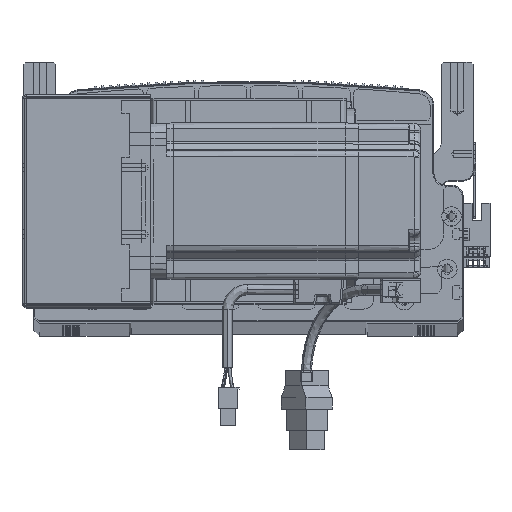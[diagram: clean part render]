
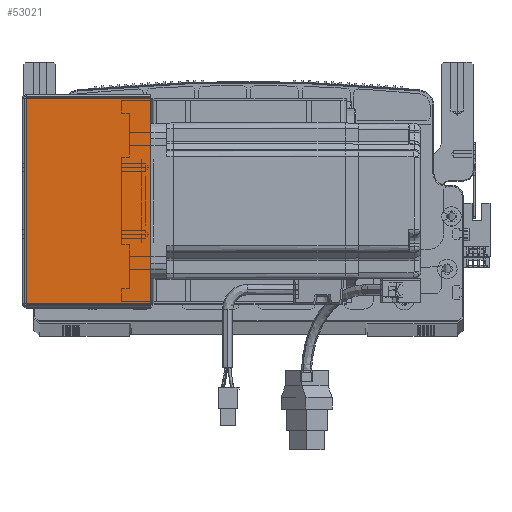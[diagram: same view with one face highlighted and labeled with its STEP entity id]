
A CAD part, top view. The second image highlights one B-rep face of the part: STEP entity #53021.
In plain terms, the highlighted planar face has unit normal (0, 0, 1) as drawn and (0, 0, -1) by its records, which use the part's own axes.
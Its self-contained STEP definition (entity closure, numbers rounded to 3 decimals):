
#905 = LINE ( 'NONE', #7911, #83351 ) ;
#3942 = EDGE_CURVE ( 'NONE', #25735, #85923, #59200, .T. ) ;
#7911 = CARTESIAN_POINT ( 'NONE',  ( 0., 0.707, -205.5 ) ) ;
#9905 = EDGE_LOOP ( 'NONE', ( #40443, #67300, #39289, #98272 ) ) ;
#10550 = EDGE_CURVE ( 'NONE', #56465, #85923, #905, .T. ) ;
#15975 = CARTESIAN_POINT ( 'NONE',  ( 0., 0., -205.5 ) ) ;
#24647 = DIRECTION ( 'NONE',  ( 1., 0., 0. ) ) ;
#24986 = DIRECTION ( 'NONE',  ( 1., 0., 0. ) ) ;
#25735 = VERTEX_POINT ( 'NONE', #40219 ) ;
#28503 = CARTESIAN_POINT ( 'NONE',  ( 0., 105.293, -205.5 ) ) ;
#33051 = DIRECTION ( 'NONE',  ( 0., 0., 1. ) ) ;
#39286 = FACE_OUTER_BOUND ( 'NONE', #9905, .T. ) ;
#39289 = ORIENTED_EDGE ( 'NONE', *, *, #3942, .T. ) ;
#39947 = CARTESIAN_POINT ( 'NONE',  ( 0.737, 105.293, -205.5 ) ) ;
#40219 = CARTESIAN_POINT ( 'NONE',  ( 64.5, 105.293, -205.5 ) ) ;
#40443 = ORIENTED_EDGE ( 'NONE', *, *, #59881, .F. ) ;
#41884 = VERTEX_POINT ( 'NONE', #39947 ) ;
#44677 = DIRECTION ( 'NONE',  ( 0., -1., 0. ) ) ;
#48752 = PLANE ( 'NONE',  #97029 ) ;
#53021 = ADVANCED_FACE ( 'NONE', ( #39286 ), #48752, .F. ) ;
#56465 = VERTEX_POINT ( 'NONE', #90686 ) ;
#59200 = LINE ( 'NONE', #74549, #62904 ) ;
#59496 = VECTOR ( 'NONE', #73494, 1000. ) ;
#59881 = EDGE_CURVE ( 'NONE', #41884, #56465, #87098, .T. ) ;
#62904 = VECTOR ( 'NONE', #74886, 1000. ) ;
#67300 = ORIENTED_EDGE ( 'NONE', *, *, #74855, .T. ) ;
#73370 = VECTOR ( 'NONE', #44677, 1000. ) ;
#73494 = DIRECTION ( 'NONE',  ( 1., 0., 0. ) ) ;
#74549 = CARTESIAN_POINT ( 'NONE',  ( 64.5, 0., -205.5 ) ) ;
#74855 = EDGE_CURVE ( 'NONE', #41884, #25735, #96982, .T. ) ;
#74886 = DIRECTION ( 'NONE',  ( 0., -1., 0. ) ) ;
#76398 = CARTESIAN_POINT ( 'NONE',  ( 0.737, 0., -205.5 ) ) ;
#83351 = VECTOR ( 'NONE', #24647, 1000. ) ;
#85923 = VERTEX_POINT ( 'NONE', #102940 ) ;
#87098 = LINE ( 'NONE', #76398, #73370 ) ;
#90686 = CARTESIAN_POINT ( 'NONE',  ( 0.737, 0.707, -205.5 ) ) ;
#96982 = LINE ( 'NONE', #28503, #59496 ) ;
#97029 = AXIS2_PLACEMENT_3D ( 'NONE', #15975, #33051, #24986 ) ;
#98272 = ORIENTED_EDGE ( 'NONE', *, *, #10550, .F. ) ;
#102940 = CARTESIAN_POINT ( 'NONE',  ( 64.5, 0.707, -205.5 ) ) ;
